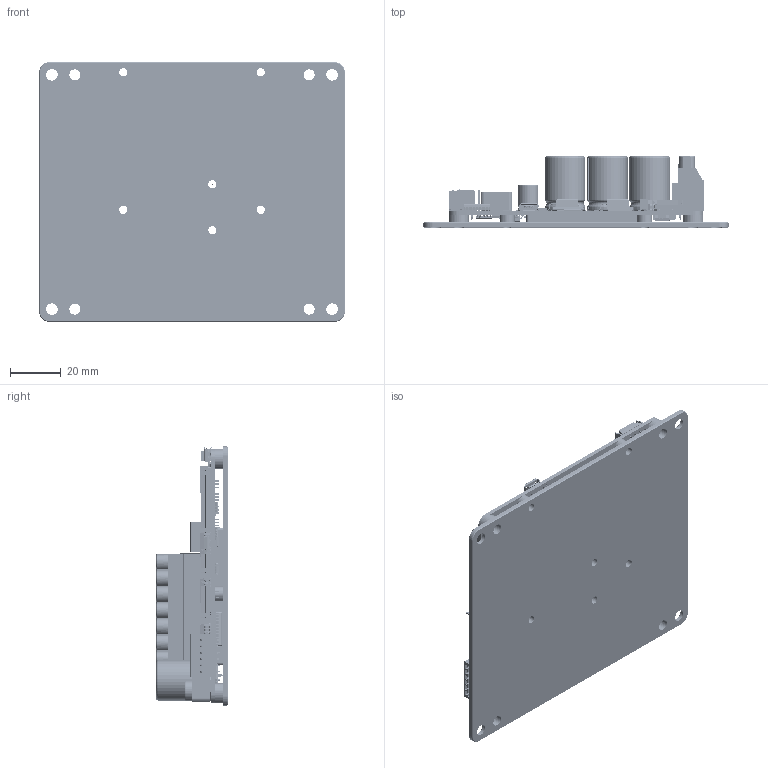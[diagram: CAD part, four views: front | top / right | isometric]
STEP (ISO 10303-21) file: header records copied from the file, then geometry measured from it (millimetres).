
FILE_DESCRIPTION (( 'STEP AP214' ), '1' );
FILE_NAME ('i033-01H1(80V40A)-Plate.STEP', '2015-09-15T10:46:53', ( '' ), ( '' ), 'SwSTEP 2.0', 'SolidWorks 2014', '' );
FILE_SCHEMA (( 'AUTOMOTIVE_DESIGN' ));
Length unit declared in the file: millimetre
Products named in the file (3): ColdPlate; i033-01H1(80V40A)-Plate; i033-01H1(80V40A)-noPlate
Assembly tree (2 placements, depth 2):
  i033-01H1(80V40A)-Plate
    ColdPlate
    i033-01H1(80V40A)-noPlate
Bounding box: 120 x 28.12 x 102 mm (x, y, z)
Volume: 32175.4 mm3; surface area: 71884.7 mm2
Topology: 1 solids, 882 shells, 16369 faces, 44087 edges, 28494 vertices
Faces by surface type: plane 8988, cylinder 5130, torus 828, sphere 706, bspline 673, cone 44
Entity records: 709027 total; most frequent: CARTESIAN_POINT 123387, DIRECTION 83429, ORIENTED_EDGE 82764, EDGE_CURVE 43284, VECTOR 30143, LINE 30143, VERTEX_POINT 28383, AXIS2_PLACEMENT_3D 26643
